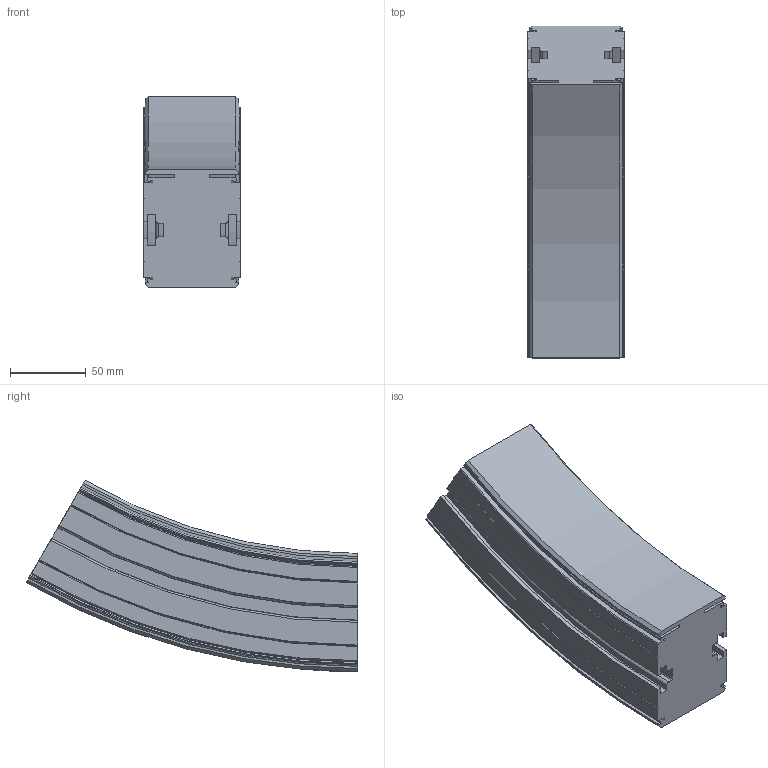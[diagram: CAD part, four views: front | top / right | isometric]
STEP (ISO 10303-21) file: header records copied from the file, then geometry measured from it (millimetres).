
FILE_DESCRIPTION(/* description */ ('VERTIKALKURVA S620 R400'),/* implementation_level */ '2;1');
FILE_NAME(/* name */ '\\carryline.intra\privat\users\mathias\Desktop\Tillfälliga filer\620-5645+620-2000-NER-01.stp',/* time_stamp */ '2018-12-05T15:55:07+01:00',/* author */ ('MD'),/* organization */ ('CARRYLINE'),/* preprocessor_version */ 'ST-DEVELOPER v17',/* originating_system */ 'Autodesk Inventor 2018',/* authorisation */ '');
FILE_SCHEMA (('AUTOMOTIVE_DESIGN { 1 0 10303 214 3 1 1 }'));
Length unit declared in the file: millimetre
Products named in the file (1): 620-5645+620-2000-NER-01
Bounding box: 64 x 219 x 126.23 mm (x, y, z)
Volume: 933930 mm3; surface area: 108199.5 mm2
Topology: 1 solids, 1 shells, 149 faces, 426 edges, 284 vertices
Faces by surface type: plane 54, cylinder 37, torus 28, cone 16, bspline 14
Entity records: 9542 total; most frequent: CARTESIAN_POINT 5522, ORIENTED_EDGE 852, DIRECTION 836, EDGE_CURVE 426, AXIS2_PLACEMENT_3D 315, VERTEX_POINT 284, LINE 206, VECTOR 206
